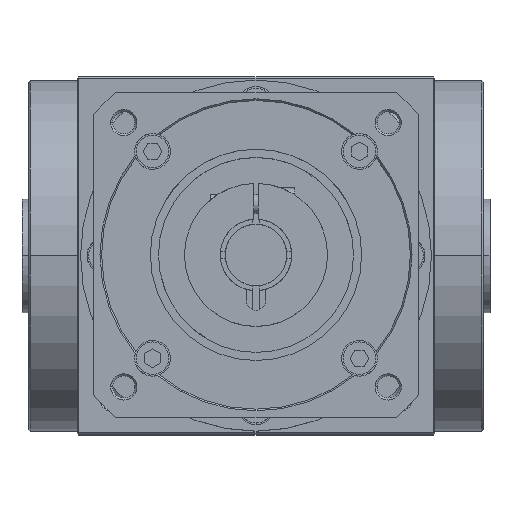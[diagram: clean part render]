
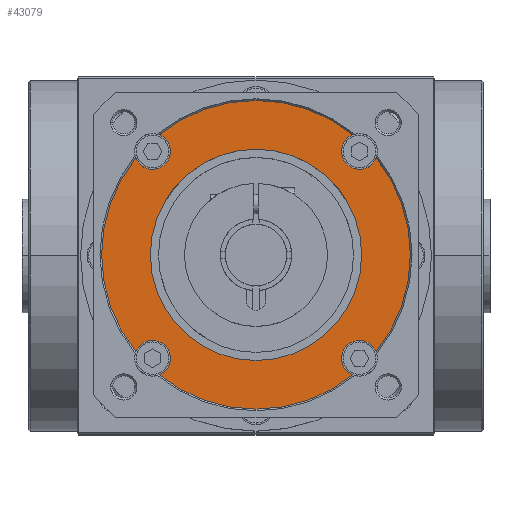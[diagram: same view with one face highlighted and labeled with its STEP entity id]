
A CAD part, top view. The second image highlights one B-rep face of the part: STEP entity #43079.
In plain terms, the highlighted planar face has unit normal (0, 0, 1).
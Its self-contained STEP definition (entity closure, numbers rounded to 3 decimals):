
#277 = VERTEX_POINT ( 'NONE', #43343 ) ;
#340 = EDGE_LOOP ( 'NONE', ( #22450, #44493 ) ) ;
#724 = AXIS2_PLACEMENT_3D ( 'NONE', #57792, #32533, #3949 ) ;
#1382 = AXIS2_PLACEMENT_3D ( 'NONE', #34800, #34787, #34744 ) ;
#1495 = CIRCLE ( 'NONE', #24617, 47.5 ) ;
#1703 = CARTESIAN_POINT ( 'NONE',  ( 0., 0., 10. ) ) ;
#1893 = DIRECTION ( 'NONE',  ( 0., 0., -1. ) ) ;
#2697 = VERTEX_POINT ( 'NONE', #33970 ) ;
#3492 = ORIENTED_EDGE ( 'NONE', *, *, #52955, .T. ) ;
#3576 = PLANE ( 'NONE',  #56618 ) ;
#3596 = CIRCLE ( 'NONE', #43695, 5.5 ) ;
#3712 = VERTEX_POINT ( 'NONE', #19631 ) ;
#3949 = DIRECTION ( 'NONE',  ( 1., 0., 0. ) ) ;
#4064 = CARTESIAN_POINT ( 'NONE',  ( -31.82, 31.82, 10. ) ) ;
#4104 = VERTEX_POINT ( 'NONE', #35288 ) ;
#4857 = EDGE_CURVE ( 'NONE', #9862, #4896, #11572, .T. ) ;
#4896 = VERTEX_POINT ( 'NONE', #33809 ) ;
#5024 = CARTESIAN_POINT ( 'NONE',  ( -36.953, 29.845, 10. ) ) ;
#5560 = CARTESIAN_POINT ( 'NONE',  ( 47.5, 0., 10. ) ) ;
#6395 = ORIENTED_EDGE ( 'NONE', *, *, #16993, .T. ) ;
#6578 = DIRECTION ( 'NONE',  ( 1., 0., 0. ) ) ;
#7261 = CIRCLE ( 'NONE', #58515, 47.5 ) ;
#7994 = CARTESIAN_POINT ( 'NONE',  ( 31.82, -31.82, 10. ) ) ;
#8441 = DIRECTION ( 'NONE',  ( 0., 0., 1. ) ) ;
#8552 = EDGE_CURVE ( 'NONE', #11792, #2697, #30445, .T. ) ;
#8783 = VERTEX_POINT ( 'NONE', #5560 ) ;
#8947 = DIRECTION ( 'NONE',  ( 1., 0., 0. ) ) ;
#9862 = VERTEX_POINT ( 'NONE', #30745 ) ;
#11230 = VERTEX_POINT ( 'NONE', #48700 ) ;
#11572 = CIRCLE ( 'NONE', #1382, 47.5 ) ;
#11732 = CIRCLE ( 'NONE', #29629, 5.5 ) ;
#11792 = VERTEX_POINT ( 'NONE', #28466 ) ;
#12921 = DIRECTION ( 'NONE',  ( 1., 0., 0. ) ) ;
#12973 = AXIS2_PLACEMENT_3D ( 'NONE', #19653, #19635, #19573 ) ;
#13187 = CARTESIAN_POINT ( 'NONE',  ( 0., 0., 10. ) ) ;
#13772 = AXIS2_PLACEMENT_3D ( 'NONE', #7994, #40538, #12921 ) ;
#14356 = VERTEX_POINT ( 'NONE', #52154 ) ;
#15983 = DIRECTION ( 'NONE',  ( 0., 0., -1. ) ) ;
#16116 = ORIENTED_EDGE ( 'NONE', *, *, #18922, .T. ) ;
#16642 = CARTESIAN_POINT ( 'NONE',  ( -31.82, 31.82, 10. ) ) ;
#16681 = DIRECTION ( 'NONE',  ( 0., 0., -1. ) ) ;
#16993 = EDGE_CURVE ( 'NONE', #36397, #277, #1495, .T. ) ;
#17050 = CIRCLE ( 'NONE', #724, 47.5 ) ;
#17470 = DIRECTION ( 'NONE',  ( 0., 0., -1. ) ) ;
#17754 = CIRCLE ( 'NONE', #51070, 5.5 ) ;
#18922 = EDGE_CURVE ( 'NONE', #26559, #9862, #40806, .T. ) ;
#19044 = ORIENTED_EDGE ( 'NONE', *, *, #26003, .T. ) ;
#19295 = CIRCLE ( 'NONE', #53376, 5.5 ) ;
#19573 = DIRECTION ( 'NONE',  ( 1., 0., 0. ) ) ;
#19631 = CARTESIAN_POINT ( 'NONE',  ( -29.845, 36.953, 10. ) ) ;
#19635 = DIRECTION ( 'NONE',  ( 0., 0., -1. ) ) ;
#19653 = CARTESIAN_POINT ( 'NONE',  ( 31.82, 31.82, 10. ) ) ;
#20460 = ORIENTED_EDGE ( 'NONE', *, *, #4857, .T. ) ;
#20915 = DIRECTION ( 'NONE',  ( 0., 0., 1. ) ) ;
#21444 = DIRECTION ( 'NONE',  ( 1., 0., 0. ) ) ;
#21458 = FACE_OUTER_BOUND ( 'NONE', #24571, .T. ) ;
#22450 = ORIENTED_EDGE ( 'NONE', *, *, #43400, .T. ) ;
#24329 = VERTEX_POINT ( 'NONE', #25810 ) ;
#24571 = EDGE_LOOP ( 'NONE', ( #36860, #52295, #29411, #49692, #50614, #6395, #50286, #16116, #20460, #3492, #26007, #19044, #55410 ) ) ;
#24617 = AXIS2_PLACEMENT_3D ( 'NONE', #30879, #30837, #30824 ) ;
#25810 = CARTESIAN_POINT ( 'NONE',  ( 36.953, -29.845, 10. ) ) ;
#26003 = EDGE_CURVE ( 'NONE', #24329, #8783, #7261, .T. ) ;
#26007 = ORIENTED_EDGE ( 'NONE', *, *, #46338, .T. ) ;
#26559 = VERTEX_POINT ( 'NONE', #56854 ) ;
#27768 = CARTESIAN_POINT ( 'NONE',  ( 0., 0., 10. ) ) ;
#28466 = CARTESIAN_POINT ( 'NONE',  ( 36.953, 29.845, 10. ) ) ;
#28498 = EDGE_CURVE ( 'NONE', #4104, #3712, #44434, .T. ) ;
#29411 = ORIENTED_EDGE ( 'NONE', *, *, #28498, .T. ) ;
#29629 = AXIS2_PLACEMENT_3D ( 'NONE', #43782, #16681, #48010 ) ;
#30229 = DIRECTION ( 'NONE',  ( 1., 0., 0. ) ) ;
#30273 = DIRECTION ( 'NONE',  ( 0., 0., -1. ) ) ;
#30349 = CARTESIAN_POINT ( 'NONE',  ( -31.82, -31.82, 10. ) ) ;
#30445 = CIRCLE ( 'NONE', #12973, 5.5 ) ;
#30606 = CARTESIAN_POINT ( 'NONE',  ( 31.82, 31.82, 10. ) ) ;
#30745 = CARTESIAN_POINT ( 'NONE',  ( -29.845, -36.953, 10. ) ) ;
#30824 = DIRECTION ( 'NONE',  ( 1., 0., 0. ) ) ;
#30837 = DIRECTION ( 'NONE',  ( 0., 0., 1. ) ) ;
#30879 = CARTESIAN_POINT ( 'NONE',  ( 0., 0., 10. ) ) ;
#32331 = DIRECTION ( 'NONE',  ( 1., 0., 0. ) ) ;
#32533 = DIRECTION ( 'NONE',  ( 0., 0., 1. ) ) ;
#33235 = CARTESIAN_POINT ( 'NONE',  ( -32.5, 0., 10. ) ) ;
#33554 = EDGE_CURVE ( 'NONE', #8783, #11792, #17050, .T. ) ;
#33779 = VERTEX_POINT ( 'NONE', #55428 ) ;
#33809 = CARTESIAN_POINT ( 'NONE',  ( 29.845, -36.953, 10. ) ) ;
#33970 = CARTESIAN_POINT ( 'NONE',  ( 26.32, 31.82, 10. ) ) ;
#34744 = DIRECTION ( 'NONE',  ( 1., 0., 0. ) ) ;
#34787 = DIRECTION ( 'NONE',  ( 0., 0., 1. ) ) ;
#34800 = CARTESIAN_POINT ( 'NONE',  ( 0., 0., 10. ) ) ;
#34946 = DIRECTION ( 'NONE',  ( 0., 0., -1. ) ) ;
#35117 = DIRECTION ( 'NONE',  ( 1., 0., 0. ) ) ;
#35288 = CARTESIAN_POINT ( 'NONE',  ( 29.845, 36.953, 10. ) ) ;
#36397 = VERTEX_POINT ( 'NONE', #5024 ) ;
#36860 = ORIENTED_EDGE ( 'NONE', *, *, #8552, .T. ) ;
#37074 = DIRECTION ( 'NONE',  ( 0., 0., -1. ) ) ;
#38492 = EDGE_CURVE ( 'NONE', #2697, #4104, #17754, .T. ) ;
#39056 = CIRCLE ( 'NONE', #13772, 5.5 ) ;
#40415 = EDGE_CURVE ( 'NONE', #3712, #11230, #3596, .T. ) ;
#40538 = DIRECTION ( 'NONE',  ( 0., 0., -1. ) ) ;
#40806 = CIRCLE ( 'NONE', #46287, 5.5 ) ;
#40964 = DIRECTION ( 'NONE',  ( 1., 0., 0. ) ) ;
#41918 = VERTEX_POINT ( 'NONE', #33235 ) ;
#43079 = ADVANCED_FACE ( 'NONE', ( #21458, #47906 ), #3576, .T. ) ;
#43166 = CARTESIAN_POINT ( 'NONE',  ( -31.82, -31.82, 10. ) ) ;
#43343 = CARTESIAN_POINT ( 'NONE',  ( -36.953, -29.845, 10. ) ) ;
#43400 = EDGE_CURVE ( 'NONE', #33779, #41918, #56254, .T. ) ;
#43695 = AXIS2_PLACEMENT_3D ( 'NONE', #4064, #37074, #8947 ) ;
#43782 = CARTESIAN_POINT ( 'NONE',  ( 31.82, -31.82, 10. ) ) ;
#44434 = CIRCLE ( 'NONE', #52279, 47.5 ) ;
#44469 = CARTESIAN_POINT ( 'NONE',  ( 0., 0., 10. ) ) ;
#44493 = ORIENTED_EDGE ( 'NONE', *, *, #50090, .T. ) ;
#44823 = EDGE_CURVE ( 'NONE', #277, #26559, #19295, .T. ) ;
#46287 = AXIS2_PLACEMENT_3D ( 'NONE', #30349, #30273, #30229 ) ;
#46338 = EDGE_CURVE ( 'NONE', #14356, #24329, #11732, .T. ) ;
#47415 = DIRECTION ( 'NONE',  ( 1., 0., 0. ) ) ;
#47504 = CARTESIAN_POINT ( 'NONE',  ( 0., 0., 10. ) ) ;
#47603 = AXIS2_PLACEMENT_3D ( 'NONE', #16642, #47972, #21444 ) ;
#47906 = FACE_BOUND ( 'NONE', #340, .T. ) ;
#47972 = DIRECTION ( 'NONE',  ( 0., 0., -1. ) ) ;
#48010 = DIRECTION ( 'NONE',  ( 1., 0., 0. ) ) ;
#48696 = DIRECTION ( 'NONE',  ( 1., 0., 0. ) ) ;
#48700 = CARTESIAN_POINT ( 'NONE',  ( -26.32, 31.82, 10. ) ) ;
#49161 = AXIS2_PLACEMENT_3D ( 'NONE', #1703, #34946, #6578 ) ;
#49692 = ORIENTED_EDGE ( 'NONE', *, *, #40415, .T. ) ;
#50090 = EDGE_CURVE ( 'NONE', #41918, #33779, #54489, .T. ) ;
#50286 = ORIENTED_EDGE ( 'NONE', *, *, #44823, .T. ) ;
#50614 = ORIENTED_EDGE ( 'NONE', *, *, #56377, .T. ) ;
#51070 = AXIS2_PLACEMENT_3D ( 'NONE', #30606, #1893, #35117 ) ;
#51768 = DIRECTION ( 'NONE',  ( 1., 0., 0. ) ) ;
#52154 = CARTESIAN_POINT ( 'NONE',  ( 26.32, -31.82, 10. ) ) ;
#52279 = AXIS2_PLACEMENT_3D ( 'NONE', #47504, #20915, #51768 ) ;
#52295 = ORIENTED_EDGE ( 'NONE', *, *, #38492, .T. ) ;
#52955 = EDGE_CURVE ( 'NONE', #4896, #14356, #39056, .T. ) ;
#53376 = AXIS2_PLACEMENT_3D ( 'NONE', #43166, #15983, #47415 ) ;
#54489 = CIRCLE ( 'NONE', #49161, 32.5 ) ;
#55410 = ORIENTED_EDGE ( 'NONE', *, *, #33554, .T. ) ;
#55428 = CARTESIAN_POINT ( 'NONE',  ( 32.5, 0., 10. ) ) ;
#56254 = CIRCLE ( 'NONE', #58283, 32.5 ) ;
#56377 = EDGE_CURVE ( 'NONE', #11230, #36397, #56406, .T. ) ;
#56406 = CIRCLE ( 'NONE', #47603, 5.5 ) ;
#56618 = AXIS2_PLACEMENT_3D ( 'NONE', #13187, #8441, #40964 ) ;
#56854 = CARTESIAN_POINT ( 'NONE',  ( -26.32, -31.82, 10. ) ) ;
#57594 = DIRECTION ( 'NONE',  ( 0., 0., 1. ) ) ;
#57792 = CARTESIAN_POINT ( 'NONE',  ( 0., 0., 10. ) ) ;
#58283 = AXIS2_PLACEMENT_3D ( 'NONE', #44469, #17470, #48696 ) ;
#58515 = AXIS2_PLACEMENT_3D ( 'NONE', #27768, #57594, #32331 ) ;
